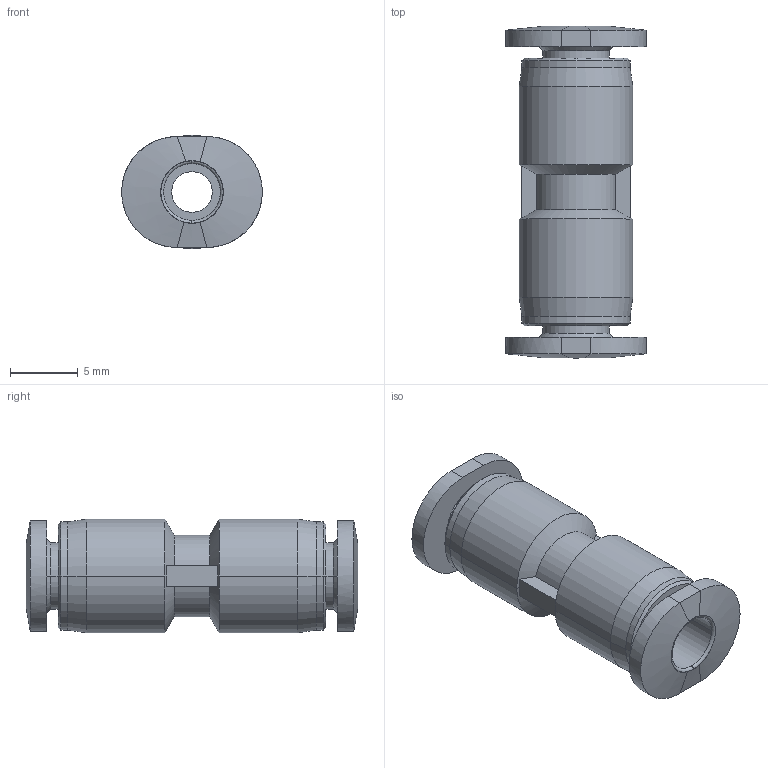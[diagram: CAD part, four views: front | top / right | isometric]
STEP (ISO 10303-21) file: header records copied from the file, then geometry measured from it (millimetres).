
FILE_DESCRIPTION (( 'STEP AP203' ), '1' );
FILE_NAME ('FMH04-00.STEP', '2020-07-07T10:53:03', ( '' ), ( '' ), 'SwSTEP 2.0', 'SolidWorks 2019', '' );
FILE_SCHEMA (( 'CONFIG_CONTROL_DESIGN' ));
Length unit declared in the file: millimetre
Products named in the file (1): FMH04-00
Bounding box: 10.4 x 24.54 x 8.4 mm (x, y, z)
Volume: 897 mm3; surface area: 1237.6 mm2
Topology: 1 solids, 1 shells, 70 faces, 158 edges, 96 vertices
Faces by surface type: cylinder 22, cone 16, bspline 14, plane 14, torus 4
Entity records: 2493 total; most frequent: CARTESIAN_POINT 909, ORIENTED_EDGE 316, DIRECTION 312, EDGE_CURVE 158, AXIS2_PLACEMENT_3D 127, VERTEX_POINT 96, EDGE_LOOP 78, CIRCLE 70
